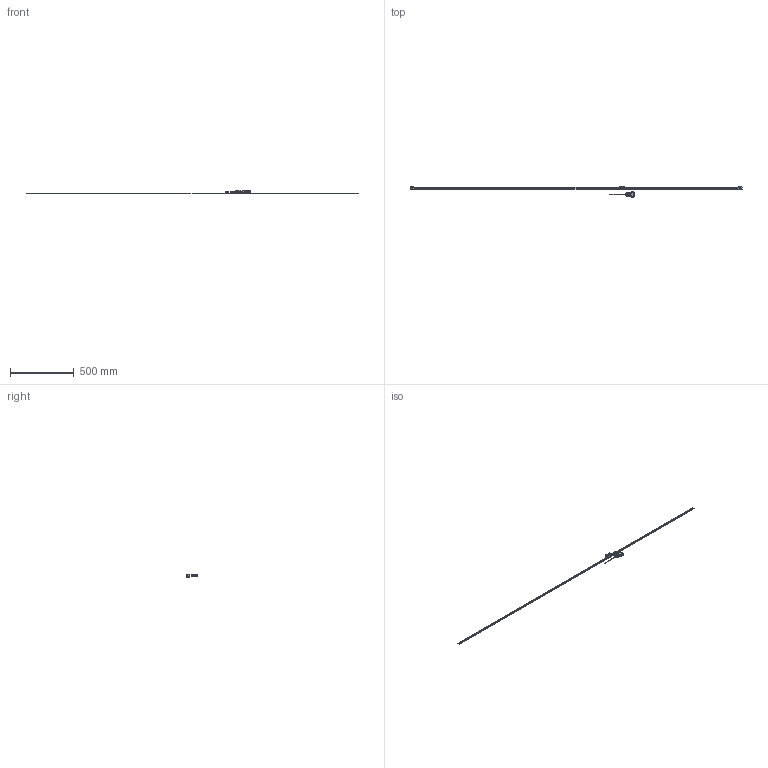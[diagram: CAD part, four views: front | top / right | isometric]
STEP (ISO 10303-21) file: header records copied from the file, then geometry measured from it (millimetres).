
FILE_DESCRIPTION(('Creo Elements/Direct Modeling STEP Export'),'2;1');
FILE_NAME('ST1300-2500E.stp','2018-02-27T12:50:44',(''),(''),'Creo Elements/Direct Modeling STEP processor for AP214 (Solid Model)','Creo Elements/Direct Modeling 18.1B 29-Sep-2012 (C) Parametric Technology GmbH','');
FILE_SCHEMA(('AUTOMOTIVE_DESIGN { 1 0 10303 214 1 1 1 1 }'));
Products named in the file (4): Connector; DetectorHead; Scale_2500; ST1300-2500E
Assembly tree (3 placements, depth 2):
  ST1300-2500E
    Scale_2500
    DetectorHead
    Connector
Bounding box: 2600 x 83 x 25.45 mm (x, y, z)
Volume: 35026 mm3; surface area: 87691.2 mm2
Topology: 2 solids, 6 shells, 3203 faces, 8994 edges, 5961 vertices
Faces by surface type: plane 1571, cylinder 1460, cone 83, extrusion 36, torus 26, bspline 23, revolution 4
Entity records: 108676 total; most frequent: CARTESIAN_POINT 24043, ORIENTED_EDGE 17972, DIRECTION 17522, EDGE_CURVE 8982, AXIS2_PLACEMENT_3D 5964, VERTEX_POINT 5961, VECTOR 5588, LINE 5572
